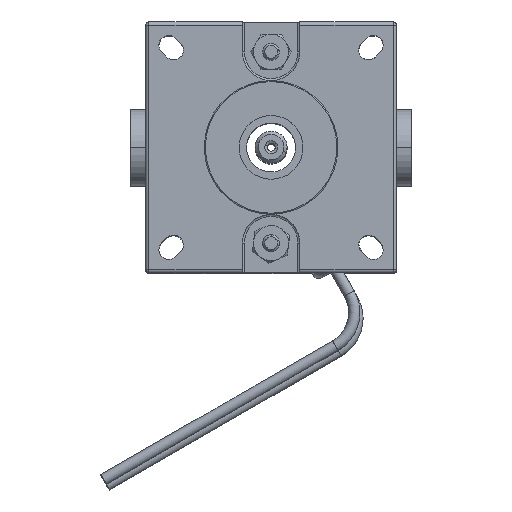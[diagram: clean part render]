
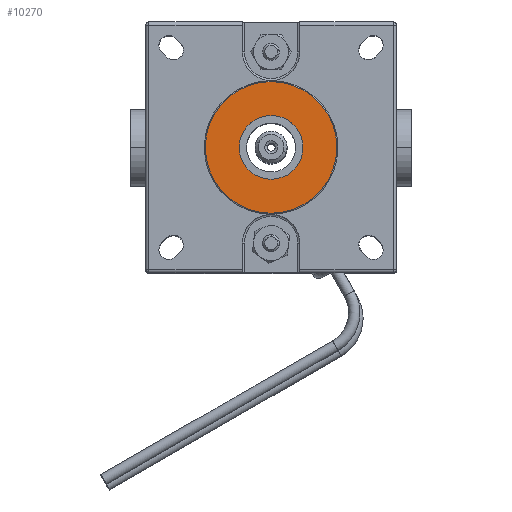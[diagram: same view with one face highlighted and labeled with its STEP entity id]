
A CAD part, top view. The second image highlights one B-rep face of the part: STEP entity #10270.
In plain terms, the highlighted planar face has unit normal (0, 0, 1).
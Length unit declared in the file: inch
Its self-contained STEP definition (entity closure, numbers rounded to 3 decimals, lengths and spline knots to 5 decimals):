
#9499 = CARTESIAN_POINT ( 'NONE',  ( 0.645, 0., 4.1895 ) ) ;
#9500 = CARTESIAN_POINT ( 'NONE',  ( -0.645, 0., 4.1895 ) ) ;
#9501 = DIRECTION ( 'NONE',  ( 1., 0., 0. ) ) ;
#9502 = DIRECTION ( 'NONE',  ( 0., 0., 1. ) ) ;
#9503 = CARTESIAN_POINT ( 'NONE',  ( 0., 0., 4.1895 ) ) ;
#9504 = AXIS2_PLACEMENT_3D ( 'NONE', #9503, #9502, #9501 ) ;
#9509 = CIRCLE ( 'NONE', #9504, 0.645 ) ;
#9536 = CARTESIAN_POINT ( 'NONE',  ( -0.3125, 0., 4.1895 ) ) ;
#9545 = AXIS2_PLACEMENT_3D ( 'NONE', #9608, #9607, #9606 ) ;
#9546 = CIRCLE ( 'NONE', #9545, 0.3125 ) ;
#9549 = DIRECTION ( 'NONE',  ( 1., 0., 0. ) ) ;
#9550 = DIRECTION ( 'NONE',  ( 0., 0., 1. ) ) ;
#9551 = CARTESIAN_POINT ( 'NONE',  ( 0., 0., 4.1895 ) ) ;
#9552 = AXIS2_PLACEMENT_3D ( 'NONE', #9551, #9550, #9549 ) ;
#9553 = PLANE ( 'NONE',  #9552 ) ;
#9554 = FACE_OUTER_BOUND ( 'NONE', #10343, .T. ) ;
#9555 = FACE_BOUND ( 'NONE', #10272, .T. ) ;
#9556 = DIRECTION ( 'NONE',  ( 1., 0., 0. ) ) ;
#9557 = DIRECTION ( 'NONE',  ( 0., 0., 1. ) ) ;
#9558 = CARTESIAN_POINT ( 'NONE',  ( 0., 0., 4.1895 ) ) ;
#9559 = AXIS2_PLACEMENT_3D ( 'NONE', #9558, #9557, #9556 ) ;
#9560 = CIRCLE ( 'NONE', #9559, 0.645 ) ;
#9579 = CARTESIAN_POINT ( 'NONE',  ( 0.3125, 0., 4.1895 ) ) ;
#9606 = DIRECTION ( 'NONE',  ( 1., 0., 0. ) ) ;
#9607 = DIRECTION ( 'NONE',  ( 0., 0., 1. ) ) ;
#9608 = CARTESIAN_POINT ( 'NONE',  ( 0., 0., 4.1895 ) ) ;
#9634 = DIRECTION ( 'NONE',  ( 1., 0., 0. ) ) ;
#9635 = DIRECTION ( 'NONE',  ( 0., 0., 1. ) ) ;
#9636 = CARTESIAN_POINT ( 'NONE',  ( 0., 0., 4.1895 ) ) ;
#9637 = AXIS2_PLACEMENT_3D ( 'NONE', #9636, #9635, #9634 ) ;
#9638 = CIRCLE ( 'NONE', #9637, 0.3125 ) ;
#10230 = EDGE_CURVE ( 'NONE', #10233, #10232, #9509, .T. ) ;
#10232 = VERTEX_POINT ( 'NONE', #9500 ) ;
#10233 = VERTEX_POINT ( 'NONE', #9499 ) ;
#10245 = VERTEX_POINT ( 'NONE', #9536 ) ;
#10267 = ORIENTED_EDGE ( 'NONE', *, *, #10268, .T. ) ;
#10268 = EDGE_CURVE ( 'NONE', #10232, #10233, #9560, .T. ) ;
#10269 = ORIENTED_EDGE ( 'NONE', *, *, #10275, .F. ) ;
#10270 = ADVANCED_FACE ( 'NONE', ( #9555, #9554 ), #9553, .T. ) ;
#10272 = EDGE_LOOP ( 'NONE', ( #10269, #10344 ) ) ;
#10275 = EDGE_CURVE ( 'NONE', #10291, #10245, #9546, .T. ) ;
#10291 = VERTEX_POINT ( 'NONE', #9579 ) ;
#10295 = EDGE_CURVE ( 'NONE', #10245, #10291, #9638, .T. ) ;
#10343 = EDGE_LOOP ( 'NONE', ( #10345, #10267 ) ) ;
#10344 = ORIENTED_EDGE ( 'NONE', *, *, #10295, .F. ) ;
#10345 = ORIENTED_EDGE ( 'NONE', *, *, #10230, .T. ) ;
